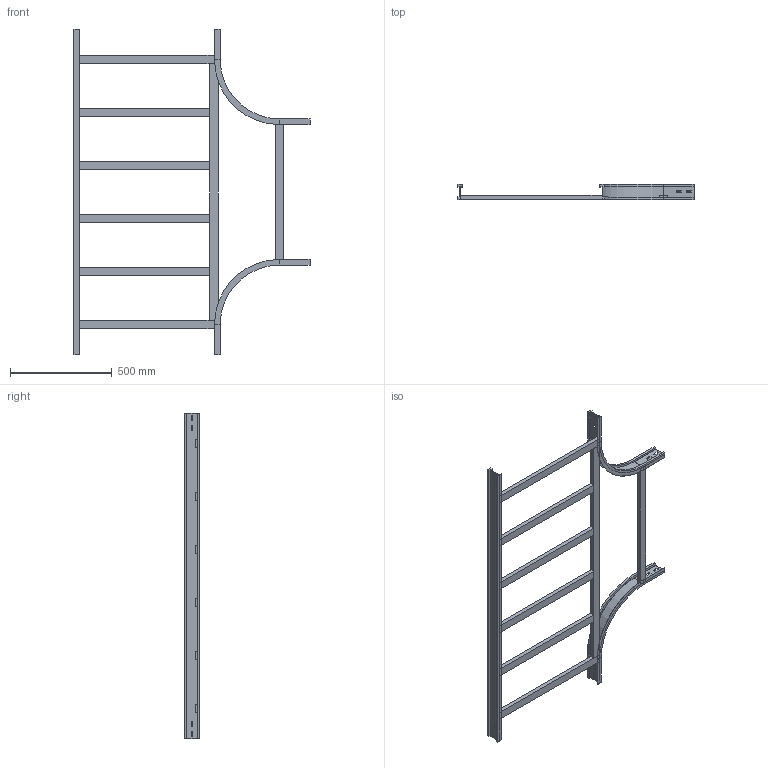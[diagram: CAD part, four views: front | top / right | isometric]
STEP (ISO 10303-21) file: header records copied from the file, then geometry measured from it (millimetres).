
FILE_DESCRIPTION (( 'STEP AP214' ), '1' );
FILE_NAME ('15S3C700.step', '2025-02-21T16:14:59', ( '' ), ( '' ), 'SwSTEP 2.0', 'SolidWorks 2023', '' );
FILE_SCHEMA (( 'AUTOMOTIVE_DESIGN' ));
Length unit declared in the file: millimetre
Products named in the file (6): 15S3C700; TRAVERSINO_INTERMEDIO_R300+700; TRAVERSINO_LONG._R300+700; LONGH.INTERNO 90°_H75_R300; TRAVERSINO_700; LONGH.RETT_H75_R300+700
Assembly tree (11 placements, depth 2):
  15S3C700
    LONGH.INTERNO 90°_H75_R300  x2
    LONGH.RETT_H75_R300+700
    TRAVERSINO_700  x3
    TRAVERSINO_LONG._R300+700
    TRAVERSINO_INTERMEDIO_R300+700  x4
Bounding box: 1159 x 75 x 1600 mm (x, y, z)
Volume: 6386570.8 mm3; surface area: 1512428.9 mm2
Topology: 11 solids, 11 shells, 186 faces, 444 edges, 280 vertices
Faces by surface type: plane 174, cylinder 12
Entity records: 3203 total; most frequent: CARTESIAN_POINT 528, ORIENTED_EDGE 504, DIRECTION 496, EDGE_CURVE 252, LINE 240, VECTOR 240, VERTEX_POINT 160, AXIS2_PLACEMENT_3D 128
